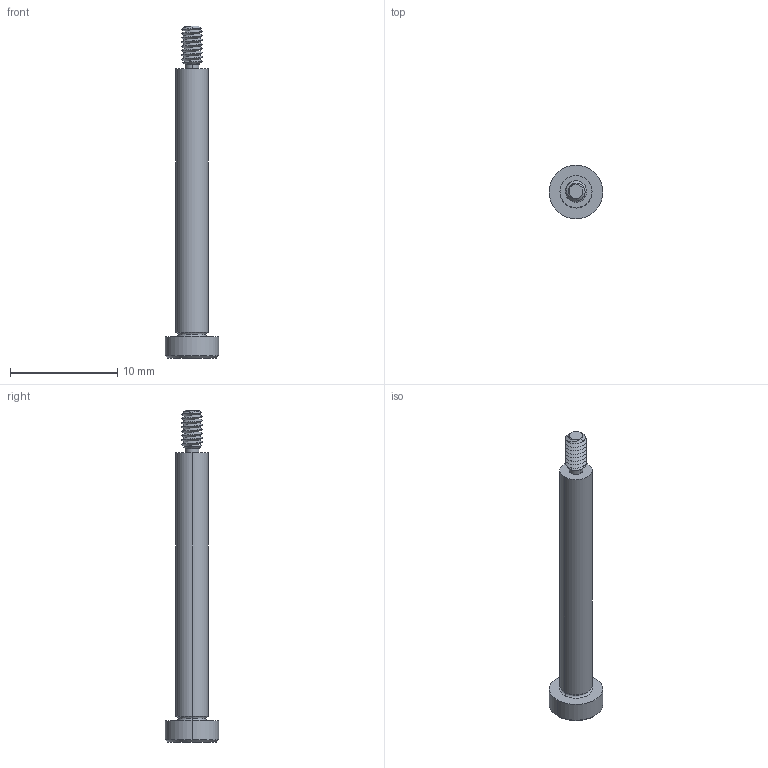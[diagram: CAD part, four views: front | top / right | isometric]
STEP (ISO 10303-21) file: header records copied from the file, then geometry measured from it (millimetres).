
FILE_DESCRIPTION (( 'STEP AP203' ), '1' );
FILE_NAME ('P0130.030-025-B2.step', '2021-11-09T20:59:06', ( '' ), ( '' ), 'SwSTEP 2.0', 'SolidWorks 2019', '' );
FILE_SCHEMA (( 'CONFIG_CONTROL_DESIGN' ));
Length unit declared in the file: millimetre
Products named in the file (1): P0130.030-025-B2
Bounding box: 5 x 5 x 31 mm (x, y, z)
Volume: 219.9 mm3; surface area: 351.7 mm2
Topology: 1 solids, 1 shells, 58 faces, 136 edges, 81 vertices
Faces by surface type: cylinder 22, plane 16, cone 14, torus 4, bspline 2
Entity records: 2452 total; most frequent: CARTESIAN_POINT 1166, ORIENTED_EDGE 268, DIRECTION 241, EDGE_CURVE 134, AXIS2_PLACEMENT_3D 97, VERTEX_POINT 81, EDGE_LOOP 61, FACE_OUTER_BOUND 58
